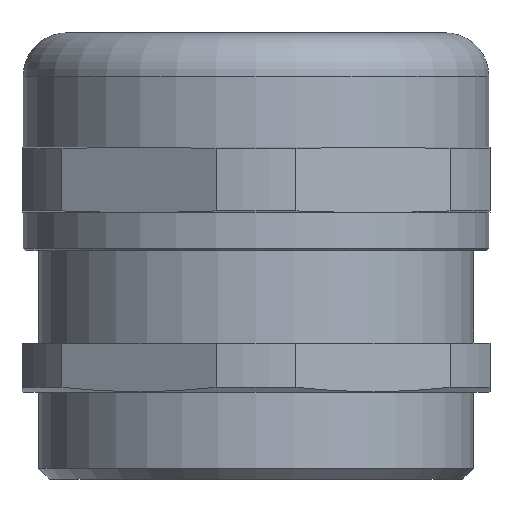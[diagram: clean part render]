
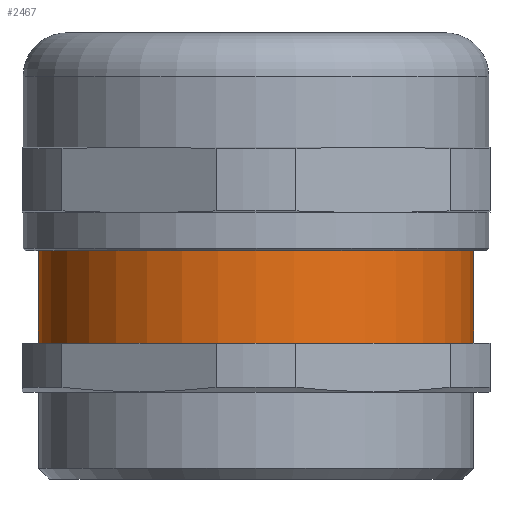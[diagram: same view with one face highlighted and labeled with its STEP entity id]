
A CAD part, front view. The second image highlights one B-rep face of the part: STEP entity #2467.
In plain terms, the highlighted cylindrical face has radius 20 mm (diameter 40 mm), a partial arc.
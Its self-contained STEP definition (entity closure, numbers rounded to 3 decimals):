
#213 = DIRECTION ( 'NONE',  ( 0., 0., -1. ) ) ;
#214 = VECTOR ( 'NONE', #213, 1000. ) ;
#215 = CARTESIAN_POINT ( 'NONE',  ( -20., 0., 0. ) ) ;
#216 = LINE ( 'NONE', #215, #214 ) ;
#217 = LINE ( 'NONE', #289, #288 ) ;
#273 = CARTESIAN_POINT ( 'NONE',  ( -20., 0., 12.5 ) ) ;
#286 = CARTESIAN_POINT ( 'NONE',  ( 20., 0., 12.5 ) ) ;
#287 = DIRECTION ( 'NONE',  ( 0., 0., -1. ) ) ;
#288 = VECTOR ( 'NONE', #287, 1000. ) ;
#289 = CARTESIAN_POINT ( 'NONE',  ( 20., 0., 0. ) ) ;
#312 = CARTESIAN_POINT ( 'NONE',  ( 20., 0., 21. ) ) ;
#313 = CARTESIAN_POINT ( 'NONE',  ( -20., 0., 21. ) ) ;
#1382 = DIRECTION ( 'NONE',  ( -1., 0., 0. ) ) ;
#1383 = DIRECTION ( 'NONE',  ( 0., 0., -1. ) ) ;
#1384 = CARTESIAN_POINT ( 'NONE',  ( 0., 0., 12.5 ) ) ;
#1385 = AXIS2_PLACEMENT_3D ( 'NONE', #1384, #1383, #1382 ) ;
#1386 = CIRCLE ( 'NONE', #1385, 20. ) ;
#2419 = ORIENTED_EDGE ( 'NONE', *, *, #2842, .T. ) ;
#2420 = ORIENTED_EDGE ( 'NONE', *, *, #2599, .F. ) ;
#2467 = ADVANCED_FACE ( 'NONE', ( #5098 ), #5097, .T. ) ;
#2468 = EDGE_LOOP ( 'NONE', ( #2469, #2470, #2419, #2420 ) ) ;
#2469 = ORIENTED_EDGE ( 'NONE', *, *, #2849, .F. ) ;
#2470 = ORIENTED_EDGE ( 'NONE', *, *, #2471, .T. ) ;
#2471 = EDGE_CURVE ( 'NONE', #2868, #2867, #5096, .T. ) ;
#2599 = EDGE_CURVE ( 'NONE', #2850, #2840, #1386, .T. ) ;
#2840 = VERTEX_POINT ( 'NONE', #273 ) ;
#2842 = EDGE_CURVE ( 'NONE', #2867, #2840, #216, .T. ) ;
#2849 = EDGE_CURVE ( 'NONE', #2868, #2850, #217, .T. ) ;
#2850 = VERTEX_POINT ( 'NONE', #286 ) ;
#2867 = VERTEX_POINT ( 'NONE', #313 ) ;
#2868 = VERTEX_POINT ( 'NONE', #312 ) ;
#5088 = DIRECTION ( 'NONE',  ( -1., 0., 0. ) ) ;
#5089 = DIRECTION ( 'NONE',  ( 0., 0., -1. ) ) ;
#5090 = CARTESIAN_POINT ( 'NONE',  ( 0., 0., 21. ) ) ;
#5091 = AXIS2_PLACEMENT_3D ( 'NONE', #5090, #5089, #5088 ) ;
#5092 = DIRECTION ( 'NONE',  ( -1., 0., 0. ) ) ;
#5093 = DIRECTION ( 'NONE',  ( 0., 0., -1. ) ) ;
#5094 = CARTESIAN_POINT ( 'NONE',  ( 0., 0., 0. ) ) ;
#5095 = AXIS2_PLACEMENT_3D ( 'NONE', #5094, #5093, #5092 ) ;
#5096 = CIRCLE ( 'NONE', #5091, 20. ) ;
#5097 = CYLINDRICAL_SURFACE ( 'NONE', #5095, 20. ) ;
#5098 = FACE_OUTER_BOUND ( 'NONE', #2468, .T. ) ;
